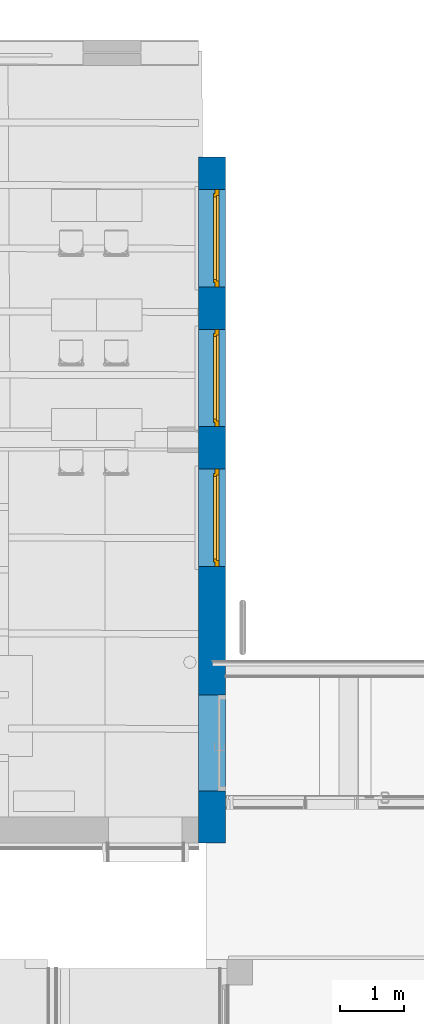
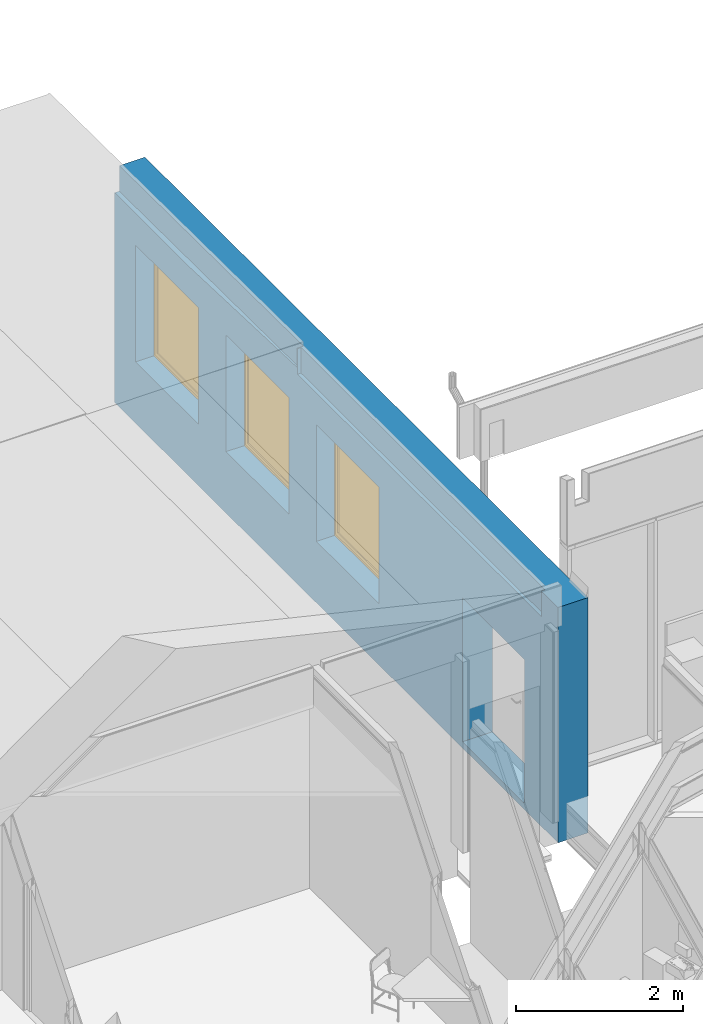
# One storey, part 42 of 153: 3 windows, 1 wall, 4 openings.
"""IFC2X3 building model written with IfcOpenShell, lengths in millimetres."""

from ifc_helpers import new_model, entity, si_unit, converted_unit, derived_unit, money_unit, direction, frame, origin_with_axes, place, context, subcontext, project, spatial, open_shell, faceted_brep, surface_model, source, transform, mapped, material, type_object, element, fill, save


model = new_model("IFC2X3")

# Units and contexts
model_context = context("Model", 3, precision=0.01, world=origin_with_axes(), true_north=direction((0.0, 1.0)))
body_context = subcontext(model_context, "Body", "Model", "MODEL_VIEW")
ifc_project = project(units=[si_unit("LENGTHUNIT", "METRE", prefix="MILLI"), si_unit("AREAUNIT", "SQUARE_METRE"), si_unit("VOLUMEUNIT", "CUBIC_METRE"), converted_unit("PLANEANGLEUNIT", "DEGREE", entity("IfcPlaneAngleMeasure", 0.0174532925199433), si_unit("PLANEANGLEUNIT", "RADIAN"), dimensions=[0, 0, 0, 0, 0, 0, 0]), money_unit("EUR"), converted_unit("TIMEUNIT", "Year", entity("IfcTimeMeasure", 31557600.0), si_unit("TIMEUNIT", "SECOND"), dimensions=[0, 0, 1, 0, 0, 0, 0]), si_unit("MASSUNIT", "GRAM", prefix="KILO"), si_unit("THERMODYNAMICTEMPERATUREUNIT", "DEGREE_CELSIUS"), si_unit("LUMINOUSINTENSITYUNIT", "LUMEN"), si_unit("ENERGYUNIT", "JOULE", prefix="MEGA"), derived_unit("THERMALCONDUCTANCEUNIT", [(si_unit("POWERUNIT", "WATT"), 1), (si_unit("LENGTHUNIT", "METRE"), -1), (si_unit("THERMODYNAMICTEMPERATUREUNIT", "KELVIN"), -1)]), derived_unit("SPECIFICHEATCAPACITYUNIT", [(si_unit("ENERGYUNIT", "JOULE"), 1), (si_unit("MASSUNIT", "GRAM", prefix="KILO"), -1), (si_unit("THERMODYNAMICTEMPERATUREUNIT", "KELVIN"), -1)]), derived_unit("MASSDENSITYUNIT", [(si_unit("MASSUNIT", "GRAM", prefix="KILO"), 1), (si_unit("VOLUMEUNIT", "CUBIC_METRE"), -1)])], contexts=[model_context])

# Site, building, storey
site_placement = place(None, frame((0.0, 0.0, 8650.0), z_axis=(0.0, 0.0, 1.0), x_axis=(1.0, 0.0, 0.0)))
site = spatial("IfcSite", under=ifc_project, at=site_placement, Name="43301:001:0844", CompositionType="ELEMENT")
building_placement = place(site_placement, origin_with_axes())
building = spatial("IfcBuilding", under=site, at=building_placement, Name="Kuressaare Ametikooli tuulikute mehaanikute õppekorpus", CompositionType="ELEMENT")
storey_placement = place(building_placement, frame((0.0, 0.0, 4100.0), z_axis=(0.0, 0.0, 1.0), x_axis=(1.0, 0.0, 0.0)))
storey = spatial("IfcBuildingStorey", under=building, at=storey_placement, Name="2.korrus", CompositionType="ELEMENT", Elevation=4100.0)

# Wall, openings, windows
ifc_material = material(Name="GENEERILINE - KONSTRUKTRIOON")
wall_type = type_object("IfcWallType", Name="GENEERILINE - KONSTRUKTRIOON 420", PredefinedType="NOTDEFINED")
wall_placement = place(storey_placement, frame((103647.5122070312, 36425.81475378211, -539.9999999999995), z_axis=(0.0, 0.0, 1.0), x_axis=(0.0, -1.0, 0.0)))
wall = element("IfcWall", 1, at=wall_placement, inside=storey, type_object=wall_type, material=ifc_material, Name="VS-XX", context=body_context, shape_type="Brep", body=[
    faceted_brep([(10242.74582983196, -420.0000000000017, 3074.999865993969), (4387.164470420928, -420.0000000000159, 3074.999865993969), (4387.164470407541, -420.0000000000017, 3069.999730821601), (4277.585060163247, -420.0000000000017, 3069.999730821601), (4277.58476494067, -420.0000000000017, 3167.485968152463), (1831.274092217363, -420.0000000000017, 3074.999865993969), (0.0, -420.0000000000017, 3074.999865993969), (0.0, -420.0000000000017, 0.0), (10642.74582983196, -420.0000000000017, 0.0), (10642.74582983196, -420.0000000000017, 3449.271351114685), (10242.74582983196, -420.0000000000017, 3449.271351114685), (4841.204119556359, -420.0000000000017, 900.0000000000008), (4841.204119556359, -420.0000000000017, 2610.000000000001), (6351.204119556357, -420.0000000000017, 2610.000000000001), (6351.204119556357, -420.0000000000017, 900.0000000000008), (4181.805254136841, -420.0000000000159, 2610.000000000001), (4181.805254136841, -420.0000000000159, 900.0000000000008), (2671.805254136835, -420.0000000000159, 900.0000000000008), (2671.805254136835, -420.0000000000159, 2610.000000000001), (502.4063887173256, -420.0000000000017, 900.0000000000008), (502.4063887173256, -420.0000000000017, 2610.000000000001), (2012.406388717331, -420.0000000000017, 2610.000000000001), (2012.406388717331, -420.0000000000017, 900.0000000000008), (9838.45250517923, -420.0000000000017, 90.0000000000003), (8348.452505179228, -420.0000000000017, 90.0000000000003), (8348.452505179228, -420.0000000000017, 2200.0), (9838.45250517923, -420.0000000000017, 2200.0), (10242.74582983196, -369.9999999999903, 3074.999865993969), (4387.164470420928, -369.9999999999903, 3074.999865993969), (4387.164470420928, -420.0000000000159, 3345.176440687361), (4376.787722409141, -419.9827850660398, 3345.176440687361), (4376.787722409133, -419.9827850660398, 3171.127058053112), (4277.585070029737, -419.8182087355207, 3166.330570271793), (4277.585361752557, -419.8182092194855, 3069.999730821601), (4376.697758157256, -404.858738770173, 3074.999865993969), (4376.251634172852, -329.8600625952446, 3074.999865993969), (0.0, -355.8918662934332, 3074.999865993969), (0.0, 0.0, 3449.271351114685), (0.0, 0.0, 0.0), (0.0, -355.8918662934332, 3449.271351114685), (10642.74582983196, 0.0, 0.0), (10642.74582983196, 0.0, 3449.271351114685), (4387.164470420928, -420.0000000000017, 3449.271351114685), (4387.164470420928, -369.9999999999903, 3449.271351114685), (10242.74582983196, -369.9999999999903, 3449.271351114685), (4376.251634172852, -329.8600625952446, 3449.271351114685), (4376.787824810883, -420.0000000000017, 3449.271351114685), (4841.204119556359, 0.0, 900.0000000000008), (4841.204119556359, 0.0, 2610.000000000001), (6351.204119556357, 0.0, 2610.000000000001), (6351.204119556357, 0.0, 900.0000000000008), (4181.805254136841, 0.0, 900.0000000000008), (4181.805254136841, 0.0, 2610.000000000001), (2671.805254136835, 0.0, 900.0000000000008), (2671.805254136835, 0.0, 2610.000000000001), (502.4063887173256, 0.0, 900.0000000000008), (502.4063887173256, 0.0, 2610.000000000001), (2012.406388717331, 0.0, 2610.000000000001), (2012.406388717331, 0.0, 900.0000000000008), (9838.45250517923, 0.0, 90.0000000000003), (8348.452505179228, 0.0, 90.0000000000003), (8348.452505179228, 0.0, 2200.0), (9838.45250517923, 0.0, 2200.0), (4376.787824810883, -420.0000000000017, 3345.176440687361)], [[[0, 1, 2, 3, 4, 5, 6, 7, 8, 9, 10], [11, 12, 13, 14], [15, 16, 17, 18], [19, 20, 21, 22], [23, 24, 25, 26]], [[27, 28, 1, 0]], [[2, 1, 29, 30, 31, 32, 33]], [[33, 3, 2]], [[3, 33, 32, 4]], [[34, 5, 4, 32, 31]], [[34, 35, 36, 6, 5]], [[37, 38, 7, 6, 36, 39]], [[7, 38, 40, 8]], [[8, 40, 41, 9]], [[42, 43, 44, 10, 9, 41, 37, 39, 45, 46]], [[27, 0, 10, 44]], [[12, 11, 47, 48]], [[13, 12, 48, 49]], [[13, 49, 50, 14]], [[14, 50, 47, 11]], [[51, 16, 15, 52]], [[53, 17, 16, 51]], [[53, 54, 18, 17]], [[54, 52, 15, 18]], [[20, 19, 55, 56]], [[21, 20, 56, 57]], [[21, 57, 58, 22]], [[22, 58, 55, 19]], [[59, 60, 24, 23]], [[60, 61, 25, 24]], [[61, 62, 26, 25]], [[62, 59, 23, 26]], [[28, 27, 44, 43]], [[1, 28, 43, 42, 29]], [[29, 63, 30]], [[63, 46, 45, 35, 34, 31, 30]], [[36, 35, 45, 39]], [[38, 37, 41, 40], [48, 47, 50, 49], [51, 52, 54, 53], [56, 55, 58, 57], [59, 62, 61, 60]], [[46, 63, 29, 42]]]),
])
opening_1_placement = place(wall_placement, frame((5596.204119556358, 0.0, 900.0000000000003), z_axis=(0.0, 0.0, 1.0), x_axis=(1.0, 0.0, 0.0)))
opening_1 = element("IfcOpeningElement", 2, at=opening_1_placement, cuts=wall, Name="AL-2,EI60", context=body_context, shape_type="Brep", body=[
    faceted_brep([(-754.999999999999, -100.0000000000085, 0.0), (-754.999999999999, -100.0000000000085, 1710.0), (-754.999999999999, 1.000000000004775, 1710.0), (-754.999999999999, 1.000000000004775, 0.0), (-754.999999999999, -421.0000000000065, 0.0), (-754.999999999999, -421.0000000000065, 1710.0), (754.999999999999, -100.0000000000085, 1710.0), (754.999999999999, 1.000000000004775, 1710.0), (754.999999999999, -421.0000000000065, 1710.0), (754.999999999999, 1.000000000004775, 0.0), (754.999999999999, -100.0000000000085, 0.0), (754.999999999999, -421.0000000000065, 0.0)], [[[0, 1, 2, 3]], [[1, 0, 4, 5]], [[6, 7, 2, 1, 5, 8]], [[7, 9, 3, 2]], [[0, 3, 9, 10, 11, 4]], [[5, 4, 11, 8]], [[6, 10, 9, 7]], [[10, 6, 8, 11]]]),
])
opening_2_placement = place(wall_placement, frame((3426.805254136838, 0.0, 900.0000000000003), z_axis=(0.0, 0.0, 1.0), x_axis=(1.0, 0.0, 0.0)))
opening_2 = element("IfcOpeningElement", 3, at=opening_2_placement, cuts=wall, Name="AL-2", context=body_context, shape_type="Brep", body=[
    faceted_brep([(-755.0000000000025, -100.0000000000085, 0.0), (-755.0000000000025, -100.0000000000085, 1710.0), (-755.0000000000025, 1.000000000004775, 1710.0), (-755.0000000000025, 1.000000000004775, 0.0), (-755.0000000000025, -421.0000000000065, 0.0), (-755.0000000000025, -421.0000000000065, 1710.0), (755.0000000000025, -100.0000000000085, 1710.0), (755.0000000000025, 1.000000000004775, 1710.0), (755.0000000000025, -421.0000000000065, 1710.0), (755.0000000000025, 1.000000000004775, 0.0), (755.0000000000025, -100.0000000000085, 0.0), (755.0000000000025, -421.0000000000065, 0.0)], [[[0, 1, 2, 3]], [[1, 0, 4, 5]], [[6, 7, 2, 1, 5, 8]], [[7, 9, 3, 2]], [[0, 3, 9, 10, 11, 4]], [[5, 4, 11, 8]], [[6, 10, 9, 7]], [[10, 6, 8, 11]]]),
])
opening_3_placement = place(wall_placement, frame((1257.406388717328, 0.0, 900.0000000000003), z_axis=(0.0, 0.0, 1.0), x_axis=(1.0, 0.0, 0.0)))
opening_3 = element("IfcOpeningElement", 4, at=opening_3_placement, cuts=wall, Name="AL-2", context=body_context, shape_type="Brep", body=[
    faceted_brep([(-755.0000000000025, -100.0000000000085, 0.0), (-755.0000000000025, -100.0000000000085, 1710.0), (-755.0000000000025, 1.000000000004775, 1710.0), (-755.0000000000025, 1.000000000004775, 0.0), (-755.0000000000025, -421.0000000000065, 0.0), (-755.0000000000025, -421.0000000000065, 1710.0), (755.0000000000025, -100.0000000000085, 1710.0), (755.0000000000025, 1.000000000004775, 1710.0), (755.0000000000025, -421.0000000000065, 1710.0), (755.0000000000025, 1.000000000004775, 0.0), (755.0000000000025, -100.0000000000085, 0.0), (755.0000000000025, -421.0000000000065, 0.0)], [[[0, 1, 2, 3]], [[1, 0, 4, 5]], [[6, 7, 2, 1, 5, 8]], [[7, 9, 3, 2]], [[0, 3, 9, 10, 11, 4]], [[5, 4, 11, 8]], [[6, 10, 9, 7]], [[10, 6, 8, 11]]]),
])
opening_4_placement = place(wall_placement, frame((9093.45250517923, 0.0, 89.99999999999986), z_axis=(0.0, 0.0, 1.0), x_axis=(1.0, 0.0, 0.0)))
element("IfcOpeningElement", 5, at=opening_4_placement, cuts=wall, Name="TU10+5,EI30,dB", context=body_context, shape_type="Brep", body=[
    faceted_brep([(-745.000000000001, -421.0000000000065, 2110.0), (-745.000000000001, -421.0000000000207, 0.0), (745.000000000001, -421.0000000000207, 0.0), (745.000000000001, -421.0000000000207, 2110.0), (-745.000000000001, 1.000000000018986, 2110.0), (-745.000000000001, 1.000000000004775, 0.0), (745.000000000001, 1.000000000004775, 0.0), (745.000000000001, 1.000000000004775, 2110.0)], [[[0, 1, 2, 3]], [[4, 5, 1, 0]], [[5, 6, 2, 1]], [[6, 7, 3, 2]], [[7, 4, 0, 3]], [[6, 5, 4, 7]]]),
])
window_style = type_object("IfcWindowStyle", Name="Window 27", ConstructionType="NOTDEFINED", OperationType="SINGLE_PANEL", ParameterTakesPrecedence=False, Sizeable=False)
shared_shape = source(origin_with_axes(), body_context, "Body", "SurfaceModel", [
    faceted_brep([(-690.0000000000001, 0.0, 1620.0), (-755.0, 0.0, 1620.0), (-755.0, -65.0000000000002, 1620.0), (-665.0, -65.0000000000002, 1620.0), (-665.0, -25.0000000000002, 1620.0), (-690.0000000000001, -25.0000000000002, 1620.0), (-690.0000000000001, 0.0, 89.99999999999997), (-755.0, 0.0, 89.99999999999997), (-755.0, -65.00000000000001, 89.99999999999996), (-665.0, -65.00000000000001, 89.99999999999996), (-665.0, -25.00000000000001, 89.99999999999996), (-690.0000000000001, -25.00000000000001, 90.00000000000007)], [[[0, 1, 2, 3, 4, 5]], [[6, 7, 1, 0]], [[1, 7, 8, 2]], [[2, 8, 9, 3]], [[4, 3, 9, 10]], [[10, 11, 5, 4]], [[5, 11, 6, 0]], [[11, 10, 9, 8, 7, 6]]]),
    faceted_brep([(665.0, -25.0000000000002, 1620.0), (665.0, -65.0000000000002, 1620.0), (755.0, -65.0000000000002, 1620.0), (755.0, 0.0, 1620.0), (690.0000000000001, 0.0, 1620.0), (690.0000000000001, -25.0000000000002, 1620.0), (665.0, -25.00000000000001, 89.99999999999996), (665.0, -65.00000000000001, 89.99999999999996), (755.0, -65.00000000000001, 89.99999999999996), (755.0, 0.0, 89.99999999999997), (690.0000000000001, 0.0, 89.99999999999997), (690.0000000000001, -25.00000000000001, 89.99999999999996)], [[[0, 1, 2, 3, 4, 5]], [[6, 7, 1, 0]], [[8, 2, 1, 7]], [[9, 3, 2, 8]], [[4, 3, 9, 10]], [[10, 11, 5, 4]], [[5, 11, 6, 0]], [[11, 10, 9, 8, 7, 6]]]),
    faceted_brep([(665.0, -25.00000000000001, 89.99999999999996), (665.0, -65.00000000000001, 89.99999999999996), (755.0, -65.00000000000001, 89.99999999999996), (755.0, 0.0, 89.99999999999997), (690.0000000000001, 0.0, 89.99999999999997), (690.0000000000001, -25.00000000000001, 89.99999999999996), (-665.0, -25.00000000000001, 89.99999999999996), (-665.0, -65.00000000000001, 89.99999999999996), (-755.0, -65.00000000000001, 89.99999999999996), (-755.0, -65.0, 0.0), (755.0, -65.0, 0.0), (755.0, 0.0, 0.0), (-690.0000000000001, 0.0, 65.00000000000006), (690.0000000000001, 0.0, 65.00000000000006), (-755.0, 0.0, 0.0), (-755.0, 0.0, 89.99999999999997), (-690.0000000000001, 0.0, 89.99999999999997), (690.0000000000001, -25.00000000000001, 65.00000000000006), (-690.0000000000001, -25.00000000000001, 65.00000000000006), (-690.0000000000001, -25.00000000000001, 90.00000000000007)], [[[0, 1, 2, 3, 4, 5]], [[6, 7, 1, 0]], [[8, 9, 10, 2, 1, 7]], [[11, 3, 2, 10]], [[12, 13, 4, 3, 11, 14, 15, 16]], [[13, 17, 5, 4]], [[5, 17, 18, 19, 6, 0]], [[19, 16, 15, 8, 7, 6]], [[15, 14, 9, 8]], [[14, 11, 10, 9]], [[12, 18, 17, 13]], [[19, 18, 12, 16]]]),
    faceted_brep([(-690.0000000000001, 0.0, 1620.0), (-755.0, 0.0, 1620.0), (-755.0, 0.0, 1710.0), (755.0, 0.0, 1710.0), (755.0, 0.0, 1620.0), (690.0000000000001, 0.0, 1620.0), (690.0000000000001, 0.0, 1645.0), (-690.0000000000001, 0.0, 1645.0), (-690.0000000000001, -25.0000000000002, 1620.0), (-665.0, -25.0000000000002, 1620.0), (-665.0, -65.0000000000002, 1620.0), (-755.0, -65.0000000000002, 1620.0), (-755.0, -65.00000000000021, 1710.0), (755.0, -65.00000000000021, 1710.0), (755.0, -65.0000000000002, 1620.0), (690.0000000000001, -25.0000000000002, 1620.0), (665.0, -65.0000000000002, 1620.0), (665.0, -25.0000000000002, 1620.0), (690.0000000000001, -25.0000000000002, 1645.0), (-690.0000000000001, -25.0000000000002, 1645.0)], [[[0, 1, 2, 3, 4, 5, 6, 7]], [[8, 9, 10, 11, 1, 0]], [[2, 1, 11, 12]], [[3, 2, 12, 13]], [[4, 3, 13, 14]], [[15, 5, 4, 14, 16, 17]], [[5, 15, 18, 6]], [[6, 18, 19, 7]], [[7, 19, 8, 0]], [[17, 9, 8, 19, 18, 15]], [[17, 16, 10, 9]], [[14, 13, 12, 11, 10, 16]]]),
    faceted_brep([(-640.0, -25.00000000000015, 1595.0), (-640.0, 24.99999999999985, 1595.0), (-690.0000000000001, 24.99999999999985, 1595.0), (-690.0000000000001, -25.00000000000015, 1595.0), (-640.0, -24.99999999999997, 115.0), (-640.0, 25.00000000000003, 115.0), (-690.0000000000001, 25.00000000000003, 115.0), (-690.0000000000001, -24.99999999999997, 115.0)], [[[0, 1, 2, 3]], [[4, 5, 1, 0]], [[1, 5, 6, 2]], [[3, 2, 6, 7]], [[0, 3, 7, 4]], [[7, 6, 5, 4]]]),
    faceted_brep([(640.0, -25.00000000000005, 115.0), (640.0, 24.99999999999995, 115.0), (690.0000000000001, 24.99999999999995, 115.0), (690.0000000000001, -25.00000000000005, 115.0), (640.0, -25.00000000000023, 1595.0), (640.0, 24.99999999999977, 1595.0), (690.0000000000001, 24.99999999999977, 1595.0), (690.0000000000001, -25.00000000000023, 1595.0)], [[[0, 1, 2, 3]], [[4, 5, 1, 0]], [[1, 5, 6, 2]], [[3, 2, 6, 7]], [[0, 3, 7, 4]], [[7, 6, 5, 4]]]),
    faceted_brep([(690.0000000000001, -25.00000000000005, 65.0), (690.0000000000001, 24.99999999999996, 65.0), (690.0000000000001, 24.99999999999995, 115.0), (690.0000000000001, -25.00000000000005, 115.0), (-690.0000000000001, -24.99999999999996, 65.0), (-690.0000000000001, 25.00000000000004, 65.0), (-690.0000000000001, 25.00000000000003, 115.0), (-640.0, 25.00000000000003, 115.0), (640.0, 24.99999999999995, 115.0), (640.0, -25.00000000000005, 115.0), (-640.0, -24.99999999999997, 115.0), (-690.0000000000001, -24.99999999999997, 115.0)], [[[0, 1, 2, 3]], [[4, 5, 1, 0]], [[1, 5, 6, 7, 8, 2]], [[3, 2, 8, 9]], [[0, 3, 9, 10, 11, 4]], [[11, 6, 5, 4]], [[10, 7, 6, 11]], [[9, 8, 7, 10]]]),
    faceted_brep([(-690.0000000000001, -25.00000000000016, 1645.0), (-690.0000000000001, 24.99999999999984, 1645.0), (-690.0000000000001, 24.99999999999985, 1595.0), (-690.0000000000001, -25.00000000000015, 1595.0), (690.0000000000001, -25.00000000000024, 1645.0), (690.0000000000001, 24.99999999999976, 1645.0), (690.0000000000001, 24.99999999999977, 1595.0), (640.0, 24.99999999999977, 1595.0), (-640.0, 24.99999999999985, 1595.0), (-640.0, -25.00000000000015, 1595.0), (640.0, -25.00000000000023, 1595.0), (690.0000000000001, -25.00000000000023, 1595.0)], [[[0, 1, 2, 3]], [[4, 5, 1, 0]], [[1, 5, 6, 7, 8, 2]], [[3, 2, 8, 9]], [[0, 3, 9, 10, 11, 4]], [[11, 6, 5, 4]], [[10, 7, 6, 11]], [[9, 8, 7, 10]]]),
    surface_model("IfcShellBasedSurfaceModel", [(-640.0, -10.00000000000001, 115.0), (640.0, -10.00000000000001, 115.0), (640.0, -10.00000000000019, 1595.0), (-640.0, -10.00000000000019, 1595.0)], [open_shell([[[0, 1, 2, 3]]])]),
    surface_model("IfcShellBasedSurfaceModel", [(-640.0, 9.99999999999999, 115.0), (-640.0, 9.99999999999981, 1595.0), (640.0, 9.99999999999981, 1595.0), (640.0, 9.99999999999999, 115.0)], [open_shell([[[0, 1, 2, 3]]])]),
])
window_1_placement = place(opening_2_placement, frame((755.0000000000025, 0.0, 0.0), z_axis=(0.0, 0.0, 1.0), x_axis=(-1.0, 0.0, 0.0)))
window_1 = element("IfcWindow", 6, at=window_1_placement, inside=storey, type_object=window_style, Name="AL-2", OverallHeight=1710.0, OverallWidth=1510.0, context=body_context, shape_type="MappedRepresentation", body=[
    mapped(shared_shape, transform((755.0000000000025, 165.0000000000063, 0.0))),
])
fill(opening_2, window_1)
window_2_placement = place(opening_3_placement, frame((755.0000000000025, 0.0, 0.0), z_axis=(0.0, 0.0, 1.0), x_axis=(-1.0, 0.0, 0.0)))
window_2 = element("IfcWindow", 7, at=window_2_placement, inside=storey, type_object=window_style, Name="AL-2", OverallHeight=1710.0, OverallWidth=1510.0, context=body_context, shape_type="MappedRepresentation", body=[
    mapped(shared_shape, transform((755.0000000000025, 165.0000000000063, 0.0))),
])
fill(opening_3, window_2)
window_3_placement = place(opening_1_placement, frame((754.999999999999, 0.0, 0.0), z_axis=(0.0, 0.0, 1.0), x_axis=(-1.0, 0.0, 0.0)))
window_3 = element("IfcWindow", 8, at=window_3_placement, inside=storey, type_object=window_style, Name="AL-2,EI60", OverallHeight=1710.0, OverallWidth=1510.0, context=body_context, shape_type="SurfaceModel", body=[
    faceted_brep([(64.99999999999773, 165.0000000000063, 1620.0), (0.0, 165.0000000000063, 1620.0), (0.0, 100.0000000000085, 1620.0), (89.99999999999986, 100.0000000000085, 1620.0), (89.99999999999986, 140.0000000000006, 1620.0), (64.99999999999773, 140.0000000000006, 1620.0), (64.99999999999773, 165.0000000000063, 89.99999999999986), (0.0, 165.0000000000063, 89.99999999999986), (0.0, 100.0000000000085, 89.99999999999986), (89.99999999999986, 100.0000000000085, 89.99999999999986), (89.99999999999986, 140.0000000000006, 89.99999999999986), (64.99999999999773, 140.0000000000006, 89.99999999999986)], [[[0, 1, 2, 3, 4, 5]], [[6, 7, 1, 0]], [[1, 7, 8, 2]], [[2, 8, 9, 3]], [[4, 3, 9, 10]], [[10, 11, 5, 4]], [[5, 11, 6, 0]], [[11, 10, 9, 8, 7, 6]]]),
    faceted_brep([(1419.999999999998, 140.0000000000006, 1620.0), (1419.999999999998, 100.0000000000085, 1620.0), (1509.999999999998, 100.0000000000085, 1620.0), (1509.999999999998, 165.0000000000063, 1620.0), (1445.0, 165.0000000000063, 1620.0), (1445.0, 140.0000000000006, 1620.0), (1419.999999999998, 140.0000000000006, 89.99999999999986), (1419.999999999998, 100.0000000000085, 89.99999999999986), (1509.999999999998, 100.0000000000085, 89.99999999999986), (1509.999999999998, 165.0000000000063, 89.99999999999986), (1445.0, 165.0000000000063, 89.99999999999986), (1445.0, 140.0000000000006, 89.99999999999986)], [[[0, 1, 2, 3, 4, 5]], [[6, 7, 1, 0]], [[8, 2, 1, 7]], [[9, 3, 2, 8]], [[4, 3, 9, 10]], [[10, 11, 5, 4]], [[5, 11, 6, 0]], [[11, 10, 9, 8, 7, 6]]]),
    faceted_brep([(1419.999999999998, 140.0000000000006, 89.99999999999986), (1419.999999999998, 100.0000000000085, 89.99999999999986), (1509.999999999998, 100.0000000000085, 89.99999999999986), (1509.999999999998, 165.0000000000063, 89.99999999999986), (1445.0, 165.0000000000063, 89.99999999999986), (1445.0, 140.0000000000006, 89.99999999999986), (89.99999999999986, 140.0000000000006, 89.99999999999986), (89.99999999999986, 100.0000000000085, 89.99999999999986), (0.0, 100.0000000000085, 89.99999999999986), (0.0, 100.0000000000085, 0.0), (1509.999999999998, 100.0000000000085, 0.0), (1509.999999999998, 165.0000000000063, 0.0), (64.99999999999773, 165.0000000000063, 65.0000000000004), (1445.0, 165.0000000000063, 65.0000000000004), (0.0, 165.0000000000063, 0.0), (0.0, 165.0000000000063, 89.99999999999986), (64.99999999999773, 165.0000000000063, 89.99999999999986), (1445.0, 140.0000000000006, 65.0000000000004), (64.99999999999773, 140.0000000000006, 65.0000000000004), (64.99999999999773, 140.0000000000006, 89.99999999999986)], [[[0, 1, 2, 3, 4, 5]], [[6, 7, 1, 0]], [[8, 9, 10, 2, 1, 7]], [[11, 3, 2, 10]], [[12, 13, 4, 3, 11, 14, 15, 16]], [[13, 17, 5, 4]], [[5, 17, 18, 19, 6, 0]], [[19, 16, 15, 8, 7, 6]], [[15, 14, 9, 8]], [[14, 11, 10, 9]], [[12, 18, 17, 13]], [[19, 18, 12, 16]]]),
    faceted_brep([(64.99999999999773, 165.0000000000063, 1620.0), (0.0, 165.0000000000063, 1620.0), (0.0, 165.0000000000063, 1710.0), (1509.999999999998, 165.0000000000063, 1710.0), (1509.999999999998, 165.0000000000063, 1620.0), (1445.0, 165.0000000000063, 1620.0), (1445.0, 165.0000000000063, 1645.0), (64.99999999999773, 165.0000000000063, 1645.0), (64.99999999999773, 140.0000000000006, 1620.0), (89.99999999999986, 140.0000000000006, 1620.0), (89.99999999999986, 100.0000000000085, 1620.0), (0.0, 100.0000000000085, 1620.0), (0.0, 100.0000000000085, 1710.0), (1509.999999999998, 100.0000000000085, 1710.0), (1509.999999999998, 100.0000000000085, 1620.0), (1445.0, 140.0000000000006, 1620.0), (1419.999999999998, 100.0000000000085, 1620.0), (1419.999999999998, 140.0000000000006, 1620.0), (1445.0, 140.0000000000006, 1645.0), (64.99999999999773, 140.0000000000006, 1645.0)], [[[0, 1, 2, 3, 4, 5, 6, 7]], [[8, 9, 10, 11, 1, 0]], [[2, 1, 11, 12]], [[3, 2, 12, 13]], [[4, 3, 13, 14]], [[15, 5, 4, 14, 16, 17]], [[5, 15, 18, 6]], [[6, 18, 19, 7]], [[7, 19, 8, 0]], [[17, 9, 8, 19, 18, 15]], [[17, 16, 10, 9]], [[14, 13, 12, 11, 10, 16]]]),
    faceted_brep([(114.9999999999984, 140.0000000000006, 1595.0), (114.9999999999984, 190.0000000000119, 1595.0), (64.99999999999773, 190.0000000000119, 1595.0), (64.99999999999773, 140.0000000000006, 1595.0), (114.9999999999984, 140.0000000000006, 115.0000000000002), (114.9999999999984, 190.0000000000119, 115.0000000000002), (64.99999999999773, 190.0000000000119, 115.0000000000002), (64.99999999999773, 140.0000000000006, 115.0000000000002)], [[[0, 1, 2, 3]], [[4, 5, 1, 0]], [[1, 5, 6, 2]], [[3, 2, 6, 7]], [[0, 3, 7, 4]], [[7, 6, 5, 4]]]),
    faceted_brep([(1395.0, 140.0000000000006, 115.0000000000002), (1395.0, 190.0000000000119, 115.0000000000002), (1445.0, 190.0000000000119, 115.0000000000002), (1445.0, 140.0000000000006, 115.0000000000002), (1395.0, 140.0000000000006, 1595.0), (1395.0, 190.0000000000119, 1595.0), (1445.0, 190.0000000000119, 1595.0), (1445.0, 140.0000000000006, 1595.0)], [[[0, 1, 2, 3]], [[4, 5, 1, 0]], [[1, 5, 6, 2]], [[3, 2, 6, 7]], [[0, 3, 7, 4]], [[7, 6, 5, 4]]]),
    faceted_brep([(1445.0, 140.0000000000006, 65.0000000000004), (1445.0, 190.0000000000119, 65.0000000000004), (1445.0, 190.0000000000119, 115.0000000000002), (1445.0, 140.0000000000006, 115.0000000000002), (64.99999999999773, 140.0000000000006, 65.0000000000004), (64.99999999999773, 190.0000000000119, 65.0000000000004), (64.99999999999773, 190.0000000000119, 115.0000000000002), (114.9999999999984, 190.0000000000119, 115.0000000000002), (1395.0, 190.0000000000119, 115.0000000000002), (1395.0, 140.0000000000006, 115.0000000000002), (114.9999999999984, 140.0000000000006, 115.0000000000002), (64.99999999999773, 140.0000000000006, 115.0000000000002)], [[[0, 1, 2, 3]], [[4, 5, 1, 0]], [[1, 5, 6, 7, 8, 2]], [[3, 2, 8, 9]], [[0, 3, 9, 10, 11, 4]], [[11, 6, 5, 4]], [[10, 7, 6, 11]], [[9, 8, 7, 10]]]),
    faceted_brep([(64.99999999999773, 140.0000000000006, 1645.0), (64.99999999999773, 190.0000000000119, 1645.0), (64.99999999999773, 190.0000000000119, 1595.0), (64.99999999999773, 140.0000000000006, 1595.0), (1445.0, 140.0000000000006, 1645.0), (1445.0, 190.0000000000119, 1645.0), (1445.0, 190.0000000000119, 1595.0), (1395.0, 190.0000000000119, 1595.0), (114.9999999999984, 190.0000000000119, 1595.0), (114.9999999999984, 140.0000000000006, 1595.0), (1395.0, 140.0000000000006, 1595.0), (1445.0, 140.0000000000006, 1595.0)], [[[0, 1, 2, 3]], [[4, 5, 1, 0]], [[1, 5, 6, 7, 8, 2]], [[3, 2, 8, 9]], [[0, 3, 9, 10, 11, 4]], [[11, 6, 5, 4]], [[10, 7, 6, 11]], [[9, 8, 7, 10]]]),
    surface_model("IfcShellBasedSurfaceModel", [(114.9999999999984, 155.0000000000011, 115.0000000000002), (1395.0, 155.0000000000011, 115.0000000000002), (1395.0, 155.0000000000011, 1595.0), (114.9999999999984, 155.0000000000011, 1595.0)], [open_shell([[[0, 1, 2, 3]]])]),
    surface_model("IfcShellBasedSurfaceModel", [(114.9999999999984, 175.0000000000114, 115.0000000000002), (114.9999999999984, 175.0000000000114, 1595.0), (1395.0, 175.0000000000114, 1595.0), (1395.0, 175.0000000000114, 115.0000000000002)], [open_shell([[[0, 1, 2, 3]]])]),
])
fill(opening_1, window_3)

save(model, "model.ifc")
